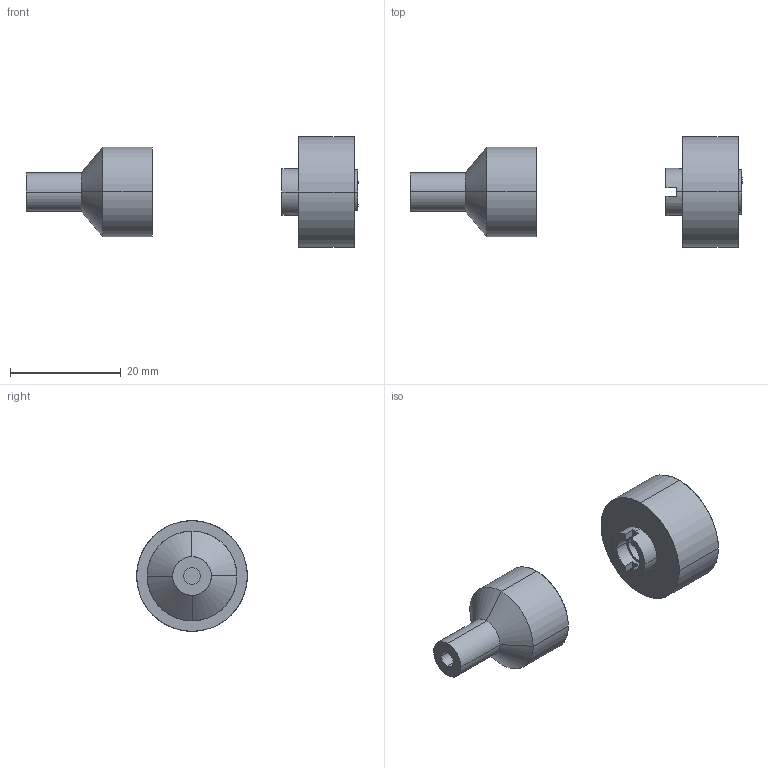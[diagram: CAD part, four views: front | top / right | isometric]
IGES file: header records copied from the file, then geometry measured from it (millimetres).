
Start section:  Autodesk DirectConnect version 8.0.56.1 ---- IGES version 5.0
Global section: file name: C:\Users\ALC\Documents\mini-Z\elements\molette_tour_a_pneu_V1.igs; native system: Autodesk DirectConnect 8.0.56.1; preprocessor: 8.0.56.1; author: ALC; organization: Unknown; date: 160205.170432; units: millimetre
Bounding box: 60 x 20 x 20 mm (x, y, z)
Surface area: 3086.3 mm2 (no closed solid volume)
Topology: 0 solids, 0 shells, 65 faces, 433 edges, 433 vertices
Faces by surface type: bspline 65
